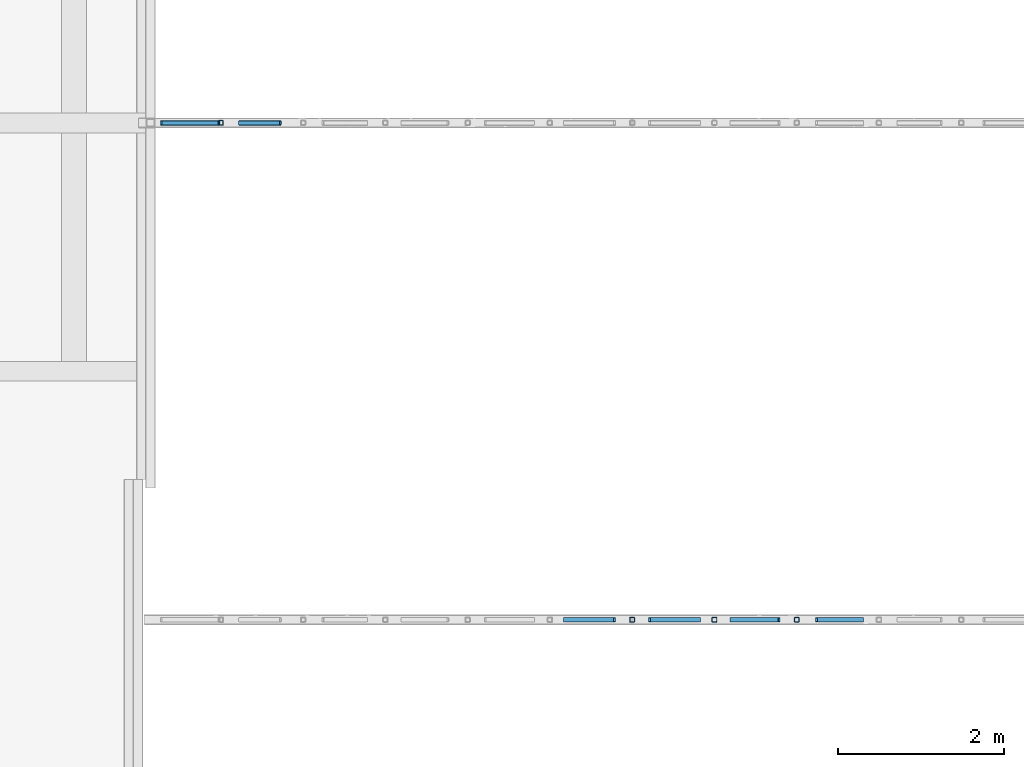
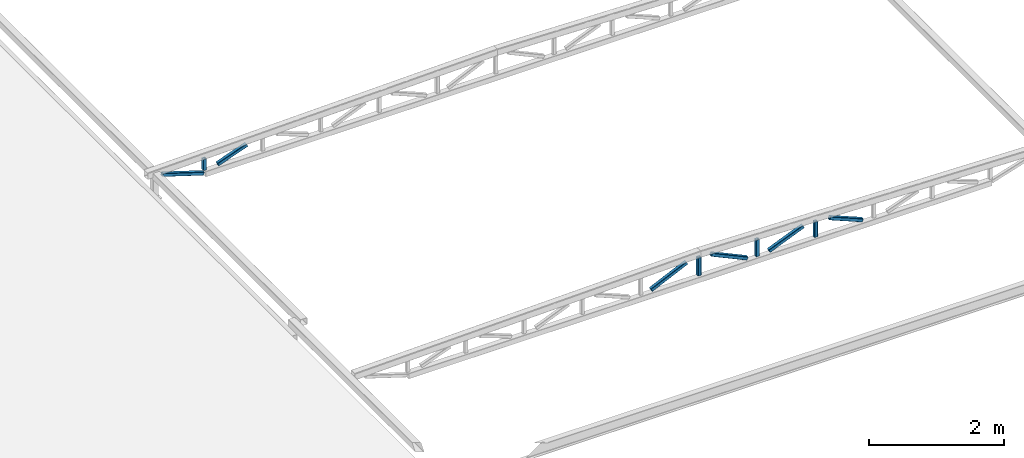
# One storey, part 5 of 12: 10 members, 2 elements without a shape of their own.
"""IFC2X3 building model written with IfcOpenShell, lengths in millimetres."""

from ifc_helpers import new_model, entity, si_unit, converted_unit, derived_unit, direction, frame, frame_2d, origin, place, context, subcontext, project, spatial, polyline, circle_curve, parameter, trimmed, segment, composite_curve, outline, extrude, source, transform, mapped, type_object, type_shapes, element, aggregate, save


model = new_model("IFC2X3")

# Units and contexts
model_context = context("Model", 3, precision=0.01, world=origin(), true_north=direction((6.12303176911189e-17, 1.0)))
body_context = subcontext(model_context, "Body", "Model", "MODEL_VIEW")
ifc_project = project(units=[si_unit("LENGTHUNIT", "METRE", prefix="MILLI"), si_unit("AREAUNIT", "SQUARE_METRE"), si_unit("VOLUMEUNIT", "CUBIC_METRE"), converted_unit("PLANEANGLEUNIT", "DEGREE", entity("IfcRatioMeasure", 0.0174532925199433), si_unit("PLANEANGLEUNIT", "RADIAN"), dimensions=[0, 0, 0, 0, 0, 0, 0]), si_unit("MASSUNIT", "GRAM", prefix="KILO"), derived_unit("MASSDENSITYUNIT", [(si_unit("MASSUNIT", "GRAM", prefix="KILO"), 1), (si_unit("LENGTHUNIT", "METRE"), -3)]), si_unit("TIMEUNIT", "SECOND"), si_unit("FREQUENCYUNIT", "HERTZ"), si_unit("THERMODYNAMICTEMPERATUREUNIT", "DEGREE_CELSIUS"), derived_unit("THERMALTRANSMITTANCEUNIT", [(si_unit("MASSUNIT", "GRAM", prefix="KILO"), 1), (si_unit("THERMODYNAMICTEMPERATUREUNIT", "KELVIN"), -1), (si_unit("TIMEUNIT", "SECOND"), -3)]), derived_unit("VOLUMETRICFLOWRATEUNIT", [(si_unit("LENGTHUNIT", "METRE"), 3), (si_unit("TIMEUNIT", "SECOND"), -1)]), si_unit("ELECTRICCURRENTUNIT", "AMPERE"), si_unit("ELECTRICVOLTAGEUNIT", "VOLT"), si_unit("POWERUNIT", "WATT"), si_unit("FORCEUNIT", "NEWTON", prefix="KILO"), si_unit("ILLUMINANCEUNIT", "LUX"), si_unit("LUMINOUSFLUXUNIT", "LUMEN"), si_unit("LUMINOUSINTENSITYUNIT", "CANDELA"), derived_unit("USERDEFINED", [(si_unit("MASSUNIT", "GRAM", prefix="KILO"), -1), (si_unit("LENGTHUNIT", "METRE"), -2), (si_unit("TIMEUNIT", "SECOND"), 3), (si_unit("LUMINOUSFLUXUNIT", "LUMEN"), 1)]), derived_unit("LINEARVELOCITYUNIT", [(si_unit("LENGTHUNIT", "METRE"), 1), (si_unit("TIMEUNIT", "SECOND"), -1)]), si_unit("PRESSUREUNIT", "PASCAL"), derived_unit("USERDEFINED", [(si_unit("LENGTHUNIT", "METRE"), -2), (si_unit("MASSUNIT", "GRAM", prefix="KILO"), 1), (si_unit("TIMEUNIT", "SECOND"), -2)])], contexts=[model_context])

# Site, building, storey
site_placement = place(None, frame((0.0, 0.0, 101000.0)))
site = spatial("IfcSite", under=ifc_project, at=site_placement, Name="Default", CompositionType="ELEMENT")
building_placement = place(site_placement, origin())
building = spatial("IfcBuilding", under=site, at=building_placement, CompositionType="ELEMENT")
storey_placement = place(building_placement, frame((0.0, 0.0, 6025.0)))
storey = spatial("IfcBuildingStorey", under=building, at=storey_placement, Name="03", CompositionType="ELEMENT", Elevation=6024.9999999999)

# Assembly, members
assembly_1_placement = place(storey_placement, origin())
assembly_1 = element("IfcElementAssembly", 1, at=assembly_1_placement, inside=storey, Name="Gitterdrager:Standard", ObjectType="Gitterdrager:Standard", AssemblyPlace="NOTDEFINED", PredefinedType="TRUSS")
member_type_1 = type_object("IfcMemberType", Name="60x60x5", PredefinedType="BRACE")
shared_shape_1 = source(origin(), body_context, "Body", "SweptSolid", [
    extrude(outline(composite_curve([segment(trimmed(circle_curve(frame_2d((-20.0, -20.0), x_axis=(1.0, 0.0)), 10.0), [parameter(180.0)], [parameter(270.0)], True, "PARAMETER"), True, "CONTINUOUS"), segment(polyline([(-20.0, -30.0), (20.0, -30.0)]), True, "CONTINUOUS"), segment(trimmed(circle_curve(frame_2d((20.0, -20.0), x_axis=(1.0, 0.0)), 10.0), [parameter(270.0)], [parameter(5.08888749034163e-14)], True, "PARAMETER"), True, "CONTINUOUS"), segment(polyline([(30.0, -20.0), (30.0, 20.0)]), True, "CONTINUOUS"), segment(trimmed(circle_curve(frame_2d((20.0, 20.0), x_axis=(1.0, 0.0)), 10.0), [parameter(360.0)], [parameter(89.9999999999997)], True, "PARAMETER"), True, "CONTINUOUS"), segment(polyline([(20.0, 30.0), (-20.0, 30.0)]), True, "CONTINUOUS"), segment(trimmed(circle_curve(frame_2d((-20.0, 20.0), x_axis=(1.0, 0.0)), 10.0), [parameter(90.0000000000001)], [parameter(180.0)], True, "PARAMETER"), True, "CONTINUOUS"), segment(polyline([(-30.0, 20.0), (-30.0, -20.0)]), True, "CONTINUOUS")], self_intersect=False), holes=[composite_curve([segment(polyline([(20.0, -25.0), (-20.0, -25.0)]), True, "CONTINUOUS"), segment(trimmed(circle_curve(frame_2d((-20.0, -20.0), x_axis=(1.0, 0.0)), 5.0), [parameter(180.0)], [parameter(270.0)], True, "PARAMETER"), False, "CONTINUOUS"), segment(polyline([(-25.0, -20.0), (-25.0, 20.0)]), True, "CONTINUOUS"), segment(trimmed(circle_curve(frame_2d((-20.0, 20.0), x_axis=(1.0, 0.0)), 5.0), [parameter(90.0000000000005)], [parameter(180.0)], True, "PARAMETER"), False, "CONTINUOUS"), segment(polyline([(-20.0, 25.0), (20.0, 25.0)]), True, "CONTINUOUS"), segment(trimmed(circle_curve(frame_2d((20.0, 20.0), x_axis=(1.0, 0.0)), 5.0), [parameter(0.0)], [parameter(90.0000000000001)], True, "PARAMETER"), False, "CONTINUOUS"), segment(polyline([(25.0, 20.0), (25.0, -20.0)]), True, "CONTINUOUS"), segment(trimmed(circle_curve(frame_2d((20.0, -20.0), x_axis=(1.0, 0.0)), 5.0), [parameter(270.0)], [parameter(4.57999874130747e-13)], True, "PARAMETER"), False, "CONTINUOUS")], self_intersect=False)]), frame((-168.190907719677, 0.0, 0.0), z_axis=(1.0, 0.0, 0.0), x_axis=(0.0, -1.0, 0.0)), (0.0, 0.0, 1.0), 324.846388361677),
])
type_shapes(member_type_1, [shared_shape_1])
member_1_placement = place(assembly_1_placement, frame((17226.2644969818, 26417.9507529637, -110.132847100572), z_axis=(1.0, 0.0, 0.0), x_axis=(0.0, 0.0, 1.0)))
member_1 = element("IfcMember", 2, at=member_1_placement, type_object=member_type_1, Name="Bjelke HUP:60x60x5", ObjectType="60x60x5", context=body_context, shape_type="MappedRepresentation", body=[
    mapped(shared_shape_1, transform((0.0, 0.0, 0.0), scale=1.0)),
])
member_type_2 = type_object("IfcMemberType", Name="60x60x5", PredefinedType="BRACE")
shared_shape_2 = source(origin(), body_context, "Body", "SweptSolid", [
    extrude(outline(composite_curve([segment(trimmed(circle_curve(frame_2d((-20.0, -20.0), x_axis=(1.0, 0.0)), 10.0), [parameter(180.0)], [parameter(270.0)], True, "PARAMETER"), True, "CONTINUOUS"), segment(polyline([(-20.0, -30.0), (20.0, -30.0)]), True, "CONTINUOUS"), segment(trimmed(circle_curve(frame_2d((20.0, -20.0), x_axis=(1.0, 0.0)), 10.0), [parameter(270.0)], [parameter(5.08888749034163e-14)], True, "PARAMETER"), True, "CONTINUOUS"), segment(polyline([(30.0, -20.0), (30.0, 20.0)]), True, "CONTINUOUS"), segment(trimmed(circle_curve(frame_2d((20.0, 20.0), x_axis=(1.0, 0.0)), 10.0), [parameter(360.0)], [parameter(89.9999999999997)], True, "PARAMETER"), True, "CONTINUOUS"), segment(polyline([(20.0, 30.0), (-20.0, 30.0)]), True, "CONTINUOUS"), segment(trimmed(circle_curve(frame_2d((-20.0, 20.0), x_axis=(1.0, 0.0)), 10.0), [parameter(90.0000000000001)], [parameter(180.0)], True, "PARAMETER"), True, "CONTINUOUS"), segment(polyline([(-30.0, 20.0), (-30.0, -20.0)]), True, "CONTINUOUS")], self_intersect=False), holes=[composite_curve([segment(polyline([(20.0, -25.0), (-20.0, -25.0)]), True, "CONTINUOUS"), segment(trimmed(circle_curve(frame_2d((-20.0, -20.0), x_axis=(1.0, 0.0)), 5.0), [parameter(180.0)], [parameter(270.0)], True, "PARAMETER"), False, "CONTINUOUS"), segment(polyline([(-25.0, -20.0), (-25.0, 20.0)]), True, "CONTINUOUS"), segment(trimmed(circle_curve(frame_2d((-20.0, 20.0), x_axis=(1.0, 0.0)), 5.0), [parameter(90.0000000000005)], [parameter(180.0)], True, "PARAMETER"), False, "CONTINUOUS"), segment(polyline([(-20.0, 25.0), (20.0, 25.0)]), True, "CONTINUOUS"), segment(trimmed(circle_curve(frame_2d((20.0, 20.0), x_axis=(1.0, 0.0)), 5.0), [parameter(0.0)], [parameter(90.0000000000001)], True, "PARAMETER"), False, "CONTINUOUS"), segment(polyline([(25.0, 20.0), (25.0, -20.0)]), True, "CONTINUOUS"), segment(trimmed(circle_curve(frame_2d((20.0, -20.0), x_axis=(1.0, 0.0)), 5.0), [parameter(270.0)], [parameter(4.57999874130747e-13)], True, "PARAMETER"), False, "CONTINUOUS")], self_intersect=False)]), frame((-155.792423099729, 0.0, 0.0), z_axis=(1.0, 0.0, 0.0), x_axis=(0.0, -1.0, 0.0)), (0.0, 0.0, 1.0), 300.049419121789),
])
type_shapes(member_type_2, [shared_shape_2])
member_2_placement = place(assembly_1_placement, frame((18219.5978303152, 26417.9507529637, -122.531331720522), z_axis=(1.0, 0.0, 0.0), x_axis=(0.0, 0.0, 1.0)))
member_2 = element("IfcMember", 3, at=member_2_placement, type_object=member_type_2, Name="Bjelke HUP:60x60x5", ObjectType="60x60x5", context=body_context, shape_type="MappedRepresentation", body=[
    mapped(shared_shape_2, transform((0.0, 0.0, 0.0), scale=1.0)),
])
member_type_3 = type_object("IfcMemberType", Name="60x60x5", PredefinedType="BRACE")
shared_shape_3 = source(origin(), body_context, "Body", "SweptSolid", [
    extrude(outline(composite_curve([segment(trimmed(circle_curve(frame_2d((-20.0, -20.0), x_axis=(1.0, 0.0)), 10.0), [parameter(180.0)], [parameter(270.0)], True, "PARAMETER"), True, "CONTINUOUS"), segment(polyline([(-20.0, -30.0), (20.0, -30.0)]), True, "CONTINUOUS"), segment(trimmed(circle_curve(frame_2d((20.0, -20.0), x_axis=(1.0, 0.0)), 10.0), [parameter(270.0)], [parameter(5.08888749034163e-14)], True, "PARAMETER"), True, "CONTINUOUS"), segment(polyline([(30.0, -20.0), (30.0, 20.0)]), True, "CONTINUOUS"), segment(trimmed(circle_curve(frame_2d((20.0, 20.0), x_axis=(1.0, 0.0)), 10.0), [parameter(360.0)], [parameter(89.9999999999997)], True, "PARAMETER"), True, "CONTINUOUS"), segment(polyline([(20.0, 30.0), (-20.0, 30.0)]), True, "CONTINUOUS"), segment(trimmed(circle_curve(frame_2d((-20.0, 20.0), x_axis=(1.0, 0.0)), 10.0), [parameter(90.0000000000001)], [parameter(180.0)], True, "PARAMETER"), True, "CONTINUOUS"), segment(polyline([(-30.0, 20.0), (-30.0, -20.0)]), True, "CONTINUOUS")], self_intersect=False), holes=[composite_curve([segment(polyline([(20.0, -25.0), (-20.0, -25.0)]), True, "CONTINUOUS"), segment(trimmed(circle_curve(frame_2d((-20.0, -20.0), x_axis=(1.0, 0.0)), 5.0), [parameter(180.0)], [parameter(270.0)], True, "PARAMETER"), False, "CONTINUOUS"), segment(polyline([(-25.0, -20.0), (-25.0, 20.0)]), True, "CONTINUOUS"), segment(trimmed(circle_curve(frame_2d((-20.0, 20.0), x_axis=(1.0, 0.0)), 5.0), [parameter(90.0000000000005)], [parameter(180.0)], True, "PARAMETER"), False, "CONTINUOUS"), segment(polyline([(-20.0, 25.0), (20.0, 25.0)]), True, "CONTINUOUS"), segment(trimmed(circle_curve(frame_2d((20.0, 20.0), x_axis=(1.0, 0.0)), 5.0), [parameter(0.0)], [parameter(90.0000000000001)], True, "PARAMETER"), False, "CONTINUOUS"), segment(polyline([(25.0, 20.0), (25.0, -20.0)]), True, "CONTINUOUS"), segment(trimmed(circle_curve(frame_2d((20.0, -20.0), x_axis=(1.0, 0.0)), 5.0), [parameter(270.0)], [parameter(4.57999874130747e-13)], True, "PARAMETER"), False, "CONTINUOUS")], self_intersect=False)]), frame((-143.393938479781, 0.0, 0.0), z_axis=(1.0, 0.0, 0.0), x_axis=(0.0, -1.0, 0.0)), (0.0, 0.0, 1.0), 275.252449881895),
])
type_shapes(member_type_3, [shared_shape_3])
member_3_placement = place(assembly_1_placement, frame((19212.9311636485, 26417.9507529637, -134.929816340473), z_axis=(1.0, 0.0, 0.0), x_axis=(0.0, 0.0, 1.0)))
member_3 = element("IfcMember", 4, at=member_3_placement, type_object=member_type_3, Name="Bjelke HUP:60x60x5", ObjectType="60x60x5", context=body_context, shape_type="MappedRepresentation", body=[
    mapped(shared_shape_3, transform((0.0, 0.0, 0.0), scale=1.0)),
])

# Assembly, member
assembly_2_placement = place(storey_placement, origin())
assembly_2 = element("IfcElementAssembly", 5, at=assembly_2_placement, inside=storey, Name="Gitterdrager:Standard", ObjectType="Gitterdrager:Standard", AssemblyPlace="NOTDEFINED", PredefinedType="TRUSS")
member_type_4 = type_object("IfcMemberType", Name="60x60x5", PredefinedType="BRACE")
shared_shape_4 = source(origin(), body_context, "Body", "SweptSolid", [
    extrude(outline(composite_curve([segment(trimmed(circle_curve(frame_2d((-20.0, -20.0), x_axis=(1.0, 0.0)), 10.0), [parameter(180.0)], [parameter(270.0)], True, "PARAMETER"), True, "CONTINUOUS"), segment(polyline([(-20.0, -30.0), (20.0, -30.0)]), True, "CONTINUOUS"), segment(trimmed(circle_curve(frame_2d((20.0, -20.0), x_axis=(1.0, 0.0)), 10.0), [parameter(270.0)], [parameter(5.08888749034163e-14)], True, "PARAMETER"), True, "CONTINUOUS"), segment(polyline([(30.0, -20.0), (30.0, 20.0)]), True, "CONTINUOUS"), segment(trimmed(circle_curve(frame_2d((20.0, 20.0), x_axis=(1.0, 0.0)), 10.0), [parameter(360.0)], [parameter(89.9999999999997)], True, "PARAMETER"), True, "CONTINUOUS"), segment(polyline([(20.0, 30.0), (-20.0, 30.0)]), True, "CONTINUOUS"), segment(trimmed(circle_curve(frame_2d((-20.0, 20.0), x_axis=(1.0, 0.0)), 10.0), [parameter(90.0000000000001)], [parameter(180.0)], True, "PARAMETER"), True, "CONTINUOUS"), segment(polyline([(-30.0, 20.0), (-30.0, -20.0)]), True, "CONTINUOUS")], self_intersect=False), holes=[composite_curve([segment(polyline([(20.0, -25.0), (-20.0, -25.0)]), True, "CONTINUOUS"), segment(trimmed(circle_curve(frame_2d((-20.0, -20.0), x_axis=(1.0, 0.0)), 5.0), [parameter(180.0)], [parameter(270.0)], True, "PARAMETER"), False, "CONTINUOUS"), segment(polyline([(-25.0, -20.0), (-25.0, 20.0)]), True, "CONTINUOUS"), segment(trimmed(circle_curve(frame_2d((-20.0, 20.0), x_axis=(1.0, 0.0)), 5.0), [parameter(90.0000000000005)], [parameter(180.0)], True, "PARAMETER"), False, "CONTINUOUS"), segment(polyline([(-20.0, 25.0), (20.0, 25.0)]), True, "CONTINUOUS"), segment(trimmed(circle_curve(frame_2d((20.0, 20.0), x_axis=(1.0, 0.0)), 5.0), [parameter(0.0)], [parameter(90.0000000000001)], True, "PARAMETER"), False, "CONTINUOUS"), segment(polyline([(25.0, 20.0), (25.0, -20.0)]), True, "CONTINUOUS"), segment(trimmed(circle_curve(frame_2d((20.0, -20.0), x_axis=(1.0, 0.0)), 5.0), [parameter(270.0)], [parameter(4.57999874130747e-13)], True, "PARAMETER"), False, "CONTINUOUS")], self_intersect=False)]), frame((-106.198484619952, 0.0, 0.0), z_axis=(1.0, 0.0, 0.0), x_axis=(0.0, -1.0, 0.0)), (0.0, 0.0, 1.0), 200.861542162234),
])
type_shapes(member_type_4, [shared_shape_4])
member_4_placement = place(assembly_2_placement, frame((12259.5978303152, 32417.9507529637, -172.12527020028), z_axis=(1.0, 0.0, 0.0), x_axis=(0.0, 0.0, 1.0)))
member_4 = element("IfcMember", 6, at=member_4_placement, type_object=member_type_4, Name="Bjelke HUP:60x60x5", ObjectType="60x60x5", context=body_context, shape_type="MappedRepresentation", body=[
    mapped(shared_shape_4, transform((0.0, 0.0, 0.0), scale=1.0)),
])

# Member
member_type_5 = type_object("IfcMemberType", Name="60x60x5", PredefinedType="BRACE")
shared_shape_5 = source(origin(), body_context, "Body", "SweptSolid", [
    extrude(outline(composite_curve([segment(trimmed(circle_curve(frame_2d((-20.0, -20.0), x_axis=(1.0, 0.0)), 10.0), [parameter(180.0)], [parameter(270.0)], True, "PARAMETER"), True, "CONTINUOUS"), segment(polyline([(-20.0, -30.0), (20.0, -30.0)]), True, "CONTINUOUS"), segment(trimmed(circle_curve(frame_2d((20.0, -20.0), x_axis=(1.0, 0.0)), 10.0), [parameter(270.0)], [parameter(5.08888749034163e-14)], True, "PARAMETER"), True, "CONTINUOUS"), segment(polyline([(30.0, -20.0), (30.0, 20.0)]), True, "CONTINUOUS"), segment(trimmed(circle_curve(frame_2d((20.0, 20.0), x_axis=(1.0, 0.0)), 10.0), [parameter(360.0)], [parameter(89.9999999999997)], True, "PARAMETER"), True, "CONTINUOUS"), segment(polyline([(20.0, 30.0), (-20.0, 30.0)]), True, "CONTINUOUS"), segment(trimmed(circle_curve(frame_2d((-20.0, 20.0), x_axis=(1.0, 0.0)), 10.0), [parameter(90.0000000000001)], [parameter(180.0)], True, "PARAMETER"), True, "CONTINUOUS"), segment(polyline([(-30.0, 20.0), (-30.0, -20.0)]), True, "CONTINUOUS")], self_intersect=False), holes=[composite_curve([segment(polyline([(20.0, -25.0), (-20.0, -25.0)]), True, "CONTINUOUS"), segment(trimmed(circle_curve(frame_2d((-20.0, -20.0), x_axis=(1.0, 0.0)), 5.0), [parameter(180.0)], [parameter(270.0)], True, "PARAMETER"), False, "CONTINUOUS"), segment(polyline([(-25.0, -20.0), (-25.0, 20.0)]), True, "CONTINUOUS"), segment(trimmed(circle_curve(frame_2d((-20.0, 20.0), x_axis=(1.0, 0.0)), 5.0), [parameter(90.0000000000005)], [parameter(180.0)], True, "PARAMETER"), False, "CONTINUOUS"), segment(polyline([(-20.0, 25.0), (20.0, 25.0)]), True, "CONTINUOUS"), segment(trimmed(circle_curve(frame_2d((20.0, 20.0), x_axis=(1.0, 0.0)), 5.0), [parameter(0.0)], [parameter(90.0000000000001)], True, "PARAMETER"), False, "CONTINUOUS"), segment(polyline([(25.0, 20.0), (25.0, -20.0)]), True, "CONTINUOUS"), segment(trimmed(circle_curve(frame_2d((20.0, -20.0), x_axis=(1.0, 0.0)), 5.0), [parameter(270.0)], [parameter(4.57999874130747e-13)], True, "PARAMETER"), False, "CONTINUOUS")], self_intersect=False)]), frame((-351.247436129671, 0.0, 0.0), z_axis=(1.0, 0.0, 0.0), x_axis=(0.0, -1.0, 0.0)), (0.0, 0.0, 1.0), 664.357457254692),
])
type_shapes(member_type_5, [shared_shape_5])
member_5_placement = place(assembly_1_placement, frame((16728.5730107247, 26417.9507529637, -110.158430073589), z_axis=(0.422233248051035, 0.0, -0.906487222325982), x_axis=(0.906487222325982, 0.0, 0.422233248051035)))
member_5 = element("IfcMember", 7, at=member_5_placement, type_object=member_type_5, Name="Bjelke HUP:60x60x5", ObjectType="60x60x5", context=body_context, shape_type="MappedRepresentation", body=[
    mapped(shared_shape_5, transform((0.0, 0.0, 0.0), scale=1.0)),
])

member_type_6 = type_object("IfcMemberType", Name="60x60x5", PredefinedType="BRACE")
shared_shape_6 = source(origin(), body_context, "Body", "SweptSolid", [
    extrude(outline(composite_curve([segment(trimmed(circle_curve(frame_2d((-20.0, -20.0), x_axis=(1.0, 0.0)), 10.0), [parameter(180.0)], [parameter(270.0)], True, "PARAMETER"), True, "CONTINUOUS"), segment(polyline([(-20.0, -30.0), (20.0, -30.0)]), True, "CONTINUOUS"), segment(trimmed(circle_curve(frame_2d((20.0, -20.0), x_axis=(1.0, 0.0)), 10.0), [parameter(270.0)], [parameter(5.08888749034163e-14)], True, "PARAMETER"), True, "CONTINUOUS"), segment(polyline([(30.0, -20.0), (30.0, 20.0)]), True, "CONTINUOUS"), segment(trimmed(circle_curve(frame_2d((20.0, 20.0), x_axis=(1.0, 0.0)), 10.0), [parameter(360.0)], [parameter(89.9999999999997)], True, "PARAMETER"), True, "CONTINUOUS"), segment(polyline([(20.0, 30.0), (-20.0, 30.0)]), True, "CONTINUOUS"), segment(trimmed(circle_curve(frame_2d((-20.0, 20.0), x_axis=(1.0, 0.0)), 10.0), [parameter(90.0000000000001)], [parameter(180.0)], True, "PARAMETER"), True, "CONTINUOUS"), segment(polyline([(-30.0, 20.0), (-30.0, -20.0)]), True, "CONTINUOUS")], self_intersect=False), holes=[composite_curve([segment(polyline([(20.0, -25.0), (-20.0, -25.0)]), True, "CONTINUOUS"), segment(trimmed(circle_curve(frame_2d((-20.0, -20.0), x_axis=(1.0, 0.0)), 5.0), [parameter(180.0)], [parameter(270.0)], True, "PARAMETER"), False, "CONTINUOUS"), segment(polyline([(-25.0, -20.0), (-25.0, 20.0)]), True, "CONTINUOUS"), segment(trimmed(circle_curve(frame_2d((-20.0, 20.0), x_axis=(1.0, 0.0)), 5.0), [parameter(90.0000000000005)], [parameter(180.0)], True, "PARAMETER"), False, "CONTINUOUS"), segment(polyline([(-20.0, 25.0), (20.0, 25.0)]), True, "CONTINUOUS"), segment(trimmed(circle_curve(frame_2d((20.0, 20.0), x_axis=(1.0, 0.0)), 5.0), [parameter(0.0)], [parameter(90.0000000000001)], True, "PARAMETER"), False, "CONTINUOUS"), segment(polyline([(25.0, 20.0), (25.0, -20.0)]), True, "CONTINUOUS"), segment(trimmed(circle_curve(frame_2d((20.0, -20.0), x_axis=(1.0, 0.0)), 5.0), [parameter(270.0)], [parameter(4.57999874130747e-13)], True, "PARAMETER"), False, "CONTINUOUS")], self_intersect=False)]), frame((-314.375226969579, 0.0, 0.0), z_axis=(1.0, 0.0, 0.0), x_axis=(0.0, -1.0, 0.0)), (0.0, 0.0, 1.0), 666.812434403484),
])
type_shapes(member_type_6, [shared_shape_6])
member_6_placement = place(assembly_1_placement, frame((17721.906344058, 26417.9507529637, -110.158430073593), z_axis=(-0.420802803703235, 0.0, -0.907152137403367), x_axis=(0.907152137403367, 0.0, -0.420802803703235)))
member_6 = element("IfcMember", 8, at=member_6_placement, type_object=member_type_6, Name="Bjelke HUP:60x60x5", ObjectType="60x60x5", context=body_context, shape_type="MappedRepresentation", body=[
    mapped(shared_shape_6, transform((0.0, 0.0, 0.0), scale=1.0)),
])

member_type_7 = type_object("IfcMemberType", Name="60x60x5", PredefinedType="BRACE")
shared_shape_7 = source(origin(), body_context, "Body", "SweptSolid", [
    extrude(outline(composite_curve([segment(trimmed(circle_curve(frame_2d((-20.0, -20.0), x_axis=(1.0, 0.0)), 10.0), [parameter(180.0)], [parameter(270.0)], True, "PARAMETER"), True, "CONTINUOUS"), segment(polyline([(-20.0, -30.0), (20.0, -30.0)]), True, "CONTINUOUS"), segment(trimmed(circle_curve(frame_2d((20.0, -20.0), x_axis=(1.0, 0.0)), 10.0), [parameter(270.0)], [parameter(5.08888749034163e-14)], True, "PARAMETER"), True, "CONTINUOUS"), segment(polyline([(30.0, -20.0), (30.0, 20.0)]), True, "CONTINUOUS"), segment(trimmed(circle_curve(frame_2d((20.0, 20.0), x_axis=(1.0, 0.0)), 10.0), [parameter(360.0)], [parameter(89.9999999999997)], True, "PARAMETER"), True, "CONTINUOUS"), segment(polyline([(20.0, 30.0), (-20.0, 30.0)]), True, "CONTINUOUS"), segment(trimmed(circle_curve(frame_2d((-20.0, 20.0), x_axis=(1.0, 0.0)), 10.0), [parameter(90.0000000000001)], [parameter(180.0)], True, "PARAMETER"), True, "CONTINUOUS"), segment(polyline([(-30.0, 20.0), (-30.0, -20.0)]), True, "CONTINUOUS")], self_intersect=False), holes=[composite_curve([segment(polyline([(20.0, -25.0), (-20.0, -25.0)]), True, "CONTINUOUS"), segment(trimmed(circle_curve(frame_2d((-20.0, -20.0), x_axis=(1.0, 0.0)), 5.0), [parameter(180.0)], [parameter(270.0)], True, "PARAMETER"), False, "CONTINUOUS"), segment(polyline([(-25.0, -20.0), (-25.0, 20.0)]), True, "CONTINUOUS"), segment(trimmed(circle_curve(frame_2d((-20.0, 20.0), x_axis=(1.0, 0.0)), 5.0), [parameter(90.0000000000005)], [parameter(180.0)], True, "PARAMETER"), False, "CONTINUOUS"), segment(polyline([(-20.0, 25.0), (20.0, 25.0)]), True, "CONTINUOUS"), segment(trimmed(circle_curve(frame_2d((20.0, 20.0), x_axis=(1.0, 0.0)), 5.0), [parameter(0.0)], [parameter(90.0000000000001)], True, "PARAMETER"), False, "CONTINUOUS"), segment(polyline([(25.0, 20.0), (25.0, -20.0)]), True, "CONTINUOUS"), segment(trimmed(circle_curve(frame_2d((20.0, -20.0), x_axis=(1.0, 0.0)), 5.0), [parameter(270.0)], [parameter(4.57999874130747e-13)], True, "PARAMETER"), False, "CONTINUOUS")], self_intersect=False)]), frame((-322.274622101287, 0.0, 0.0), z_axis=(1.0, 0.0, 0.0), x_axis=(0.0, -1.0, 0.0)), (0.0, 0.0, 1.0), 630.214484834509),
])
type_shapes(member_type_7, [shared_shape_7])
member_7_placement = place(assembly_1_placement, frame((18716.2644969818, 26417.9507529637, -134.929816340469), z_axis=(0.383267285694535, 0.0, -0.923637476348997), x_axis=(0.923637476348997, 0.0, 0.383267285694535)))
member_7 = element("IfcMember", 9, at=member_7_placement, type_object=member_type_7, Name="Bjelke HUP:60x60x5", ObjectType="60x60x5", context=body_context, shape_type="MappedRepresentation", body=[
    mapped(shared_shape_7, transform((0.0, 0.0, 0.0), scale=1.0)),
])

member_type_8 = type_object("IfcMemberType", Name="60x60x5", PredefinedType="BRACE")
shared_shape_8 = source(origin(), body_context, "Body", "SweptSolid", [
    extrude(outline(composite_curve([segment(trimmed(circle_curve(frame_2d((-20.0, -20.0), x_axis=(1.0, 0.0)), 10.0), [parameter(180.0)], [parameter(270.0)], True, "PARAMETER"), True, "CONTINUOUS"), segment(polyline([(-20.0, -30.0), (20.0, -30.0)]), True, "CONTINUOUS"), segment(trimmed(circle_curve(frame_2d((20.0, -20.0), x_axis=(1.0, 0.0)), 10.0), [parameter(270.0)], [parameter(5.08888749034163e-14)], True, "PARAMETER"), True, "CONTINUOUS"), segment(polyline([(30.0, -20.0), (30.0, 20.0)]), True, "CONTINUOUS"), segment(trimmed(circle_curve(frame_2d((20.0, 20.0), x_axis=(1.0, 0.0)), 10.0), [parameter(360.0)], [parameter(89.9999999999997)], True, "PARAMETER"), True, "CONTINUOUS"), segment(polyline([(20.0, 30.0), (-20.0, 30.0)]), True, "CONTINUOUS"), segment(trimmed(circle_curve(frame_2d((-20.0, 20.0), x_axis=(1.0, 0.0)), 10.0), [parameter(90.0000000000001)], [parameter(180.0)], True, "PARAMETER"), True, "CONTINUOUS"), segment(polyline([(-30.0, 20.0), (-30.0, -20.0)]), True, "CONTINUOUS")], self_intersect=False), holes=[composite_curve([segment(polyline([(20.0, -25.0), (-20.0, -25.0)]), True, "CONTINUOUS"), segment(trimmed(circle_curve(frame_2d((-20.0, -20.0), x_axis=(1.0, 0.0)), 5.0), [parameter(180.0)], [parameter(270.0)], True, "PARAMETER"), False, "CONTINUOUS"), segment(polyline([(-25.0, -20.0), (-25.0, 20.0)]), True, "CONTINUOUS"), segment(trimmed(circle_curve(frame_2d((-20.0, 20.0), x_axis=(1.0, 0.0)), 5.0), [parameter(90.0000000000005)], [parameter(180.0)], True, "PARAMETER"), False, "CONTINUOUS"), segment(polyline([(-20.0, 25.0), (20.0, 25.0)]), True, "CONTINUOUS"), segment(trimmed(circle_curve(frame_2d((20.0, 20.0), x_axis=(1.0, 0.0)), 5.0), [parameter(0.0)], [parameter(90.0000000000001)], True, "PARAMETER"), False, "CONTINUOUS"), segment(polyline([(25.0, 20.0), (25.0, -20.0)]), True, "CONTINUOUS"), segment(trimmed(circle_curve(frame_2d((20.0, -20.0), x_axis=(1.0, 0.0)), 5.0), [parameter(270.0)], [parameter(4.57999874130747e-13)], True, "PARAMETER"), False, "CONTINUOUS")], self_intersect=False)]), frame((-278.55434519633, 0.0, 0.0), z_axis=(1.0, 0.0, 0.0), x_axis=(0.0, -1.0, 0.0)), (0.0, 0.0, 1.0), 600.828967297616),
])
type_shapes(member_type_8, [shared_shape_8])
member_8_placement = place(assembly_1_placement, frame((19709.5978303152, 26417.9507529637, -134.929816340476), z_axis=(-0.383267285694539, 0.0, -0.923637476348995), x_axis=(0.923637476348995, 0.0, -0.383267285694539)))
member_8 = element("IfcMember", 10, at=member_8_placement, type_object=member_type_8, Name="Bjelke HUP:60x60x5", ObjectType="60x60x5", context=body_context, shape_type="MappedRepresentation", body=[
    mapped(shared_shape_8, transform((0.0, 0.0, 0.0), scale=1.0)),
])

aggregate(assembly_1, [member_1, member_2, member_3, member_5, member_6, member_7, member_8])

member_type_9 = type_object("IfcMemberType", Name="60x60x5", PredefinedType="BRACE")
shared_shape_9 = source(origin(), body_context, "Body", "SweptSolid", [
    extrude(outline(composite_curve([segment(trimmed(circle_curve(frame_2d((-20.0, -20.0), x_axis=(1.0, 0.0)), 10.0), [parameter(180.0)], [parameter(270.0)], True, "PARAMETER"), True, "CONTINUOUS"), segment(polyline([(-20.0, -30.0), (20.0, -30.0)]), True, "CONTINUOUS"), segment(trimmed(circle_curve(frame_2d((20.0, -20.0), x_axis=(1.0, 0.0)), 10.0), [parameter(270.0)], [parameter(5.08888749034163e-14)], True, "PARAMETER"), True, "CONTINUOUS"), segment(polyline([(30.0, -20.0), (30.0, 20.0)]), True, "CONTINUOUS"), segment(trimmed(circle_curve(frame_2d((20.0, 20.0), x_axis=(1.0, 0.0)), 10.0), [parameter(360.0)], [parameter(89.9999999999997)], True, "PARAMETER"), True, "CONTINUOUS"), segment(polyline([(20.0, 30.0), (-20.0, 30.0)]), True, "CONTINUOUS"), segment(trimmed(circle_curve(frame_2d((-20.0, 20.0), x_axis=(1.0, 0.0)), 10.0), [parameter(90.0000000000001)], [parameter(180.0)], True, "PARAMETER"), True, "CONTINUOUS"), segment(polyline([(-30.0, 20.0), (-30.0, -20.0)]), True, "CONTINUOUS")], self_intersect=False), holes=[composite_curve([segment(polyline([(20.0, -25.0), (-20.0, -25.0)]), True, "CONTINUOUS"), segment(trimmed(circle_curve(frame_2d((-20.0, -20.0), x_axis=(1.0, 0.0)), 5.0), [parameter(180.0)], [parameter(270.0)], True, "PARAMETER"), False, "CONTINUOUS"), segment(polyline([(-25.0, -20.0), (-25.0, 20.0)]), True, "CONTINUOUS"), segment(trimmed(circle_curve(frame_2d((-20.0, 20.0), x_axis=(1.0, 0.0)), 5.0), [parameter(90.0000000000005)], [parameter(180.0)], True, "PARAMETER"), False, "CONTINUOUS"), segment(polyline([(-20.0, 25.0), (20.0, 25.0)]), True, "CONTINUOUS"), segment(trimmed(circle_curve(frame_2d((20.0, 20.0), x_axis=(1.0, 0.0)), 5.0), [parameter(0.0)], [parameter(90.0000000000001)], True, "PARAMETER"), False, "CONTINUOUS"), segment(polyline([(25.0, 20.0), (25.0, -20.0)]), True, "CONTINUOUS"), segment(trimmed(circle_curve(frame_2d((20.0, -20.0), x_axis=(1.0, 0.0)), 5.0), [parameter(270.0)], [parameter(4.57999874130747e-13)], True, "PARAMETER"), False, "CONTINUOUS")], self_intersect=False)]), frame((-288.01944297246, 0.0, 0.0), z_axis=(1.0, 0.0, 0.0), x_axis=(0.0, -1.0, 0.0)), (0.0, 0.0, 1.0), 524.731615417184),
])
type_shapes(member_type_9, [shared_shape_9])
member_9_placement = place(assembly_2_placement, frame((12756.2644969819, 32417.9507529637, -159.726785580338), z_axis=(0.342896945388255, 0.0, -0.939373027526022), x_axis=(0.939373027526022, 0.0, 0.342896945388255)))
member_9 = element("IfcMember", 11, at=member_9_placement, type_object=member_type_9, Name="Bjelke HUP:60x60x5", ObjectType="60x60x5", context=body_context, shape_type="MappedRepresentation", body=[
    mapped(shared_shape_9, transform((0.0, 0.0, 0.0), scale=1.0)),
])

member_type_10 = type_object("IfcMemberType", Name="60x60x5", PredefinedType="BRACE")
shared_shape_10 = source(origin(), body_context, "Body", "SweptSolid", [
    extrude(outline(composite_curve([segment(trimmed(circle_curve(frame_2d((-20.0, -20.0), x_axis=(1.0, 0.0)), 10.0), [parameter(180.0)], [parameter(270.0)], True, "PARAMETER"), True, "CONTINUOUS"), segment(polyline([(-20.0, -30.0), (20.0, -30.0)]), True, "CONTINUOUS"), segment(trimmed(circle_curve(frame_2d((20.0, -20.0), x_axis=(1.0, 0.0)), 10.0), [parameter(270.0)], [parameter(5.08888749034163e-14)], True, "PARAMETER"), True, "CONTINUOUS"), segment(polyline([(30.0, -20.0), (30.0, 20.0)]), True, "CONTINUOUS"), segment(trimmed(circle_curve(frame_2d((20.0, 20.0), x_axis=(1.0, 0.0)), 10.0), [parameter(360.0)], [parameter(89.9999999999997)], True, "PARAMETER"), True, "CONTINUOUS"), segment(polyline([(20.0, 30.0), (-20.0, 30.0)]), True, "CONTINUOUS"), segment(trimmed(circle_curve(frame_2d((-20.0, 20.0), x_axis=(1.0, 0.0)), 10.0), [parameter(90.0000000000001)], [parameter(180.0)], True, "PARAMETER"), True, "CONTINUOUS"), segment(polyline([(-30.0, 20.0), (-30.0, -20.0)]), True, "CONTINUOUS")], self_intersect=False), holes=[composite_curve([segment(polyline([(20.0, -25.0), (-20.0, -25.0)]), True, "CONTINUOUS"), segment(trimmed(circle_curve(frame_2d((-20.0, -20.0), x_axis=(1.0, 0.0)), 5.0), [parameter(180.0)], [parameter(270.0)], True, "PARAMETER"), False, "CONTINUOUS"), segment(polyline([(-25.0, -20.0), (-25.0, 20.0)]), True, "CONTINUOUS"), segment(trimmed(circle_curve(frame_2d((-20.0, 20.0), x_axis=(1.0, 0.0)), 5.0), [parameter(90.0000000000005)], [parameter(180.0)], True, "PARAMETER"), False, "CONTINUOUS"), segment(polyline([(-20.0, 25.0), (20.0, 25.0)]), True, "CONTINUOUS"), segment(trimmed(circle_curve(frame_2d((20.0, 20.0), x_axis=(1.0, 0.0)), 5.0), [parameter(0.0)], [parameter(90.0000000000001)], True, "PARAMETER"), False, "CONTINUOUS"), segment(polyline([(25.0, 20.0), (25.0, -20.0)]), True, "CONTINUOUS"), segment(trimmed(circle_curve(frame_2d((20.0, -20.0), x_axis=(1.0, 0.0)), 5.0), [parameter(270.0)], [parameter(4.57999874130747e-13)], True, "PARAMETER"), False, "CONTINUOUS")], self_intersect=False)]), frame((-233.100976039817, 0.0, 0.0), z_axis=(1.0, 0.0, 0.0), x_axis=(0.0, -1.0, 0.0)), (0.0, 0.0, 1.0), 731.687840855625),
])
type_shapes(member_type_10, [shared_shape_10])
member_10_placement = place(assembly_2_placement, frame((11762.9311636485, 32417.9507529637, -184.523754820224), z_axis=(-0.300533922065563, 0.0, -0.95377112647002), x_axis=(0.95377112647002, 0.0, -0.300533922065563)))
member_10 = element("IfcMember", 12, at=member_10_placement, type_object=member_type_10, Name="Bjelke HUP:60x60x5", ObjectType="60x60x5", context=body_context, shape_type="MappedRepresentation", body=[
    mapped(shared_shape_10, transform((0.0, 0.0, 0.0), scale=1.0)),
])

aggregate(assembly_2, [member_4, member_9, member_10])

save(model, "model.ifc")
